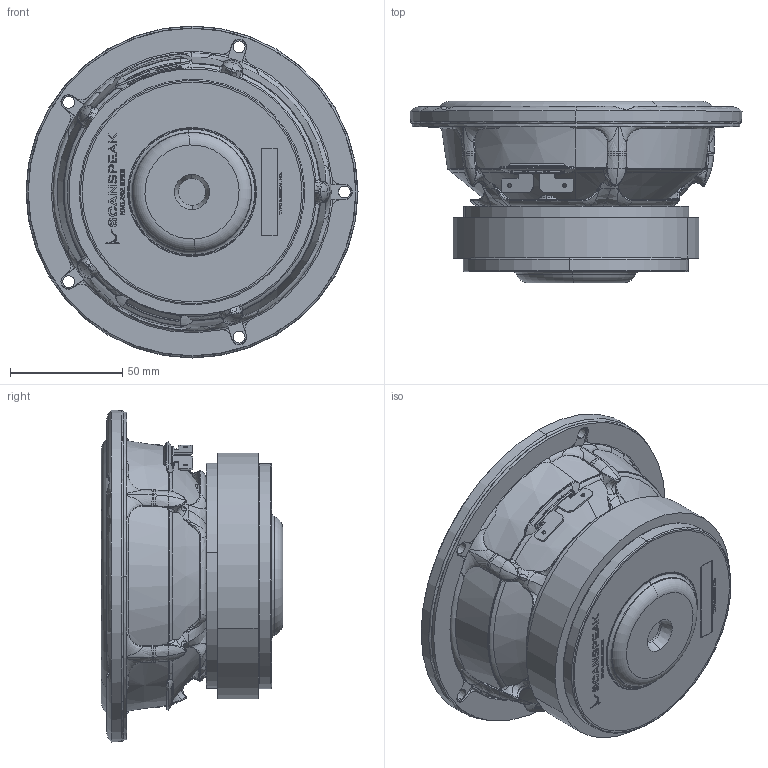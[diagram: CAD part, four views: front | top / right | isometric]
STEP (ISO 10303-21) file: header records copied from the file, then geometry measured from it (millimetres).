
FILE_DESCRIPTION (( 'STEP AP214' ), '1' );
FILE_NAME ('15W-4531G00.STEP', '2020-12-14T09:52:19', ( '' ), ( '' ), 'SwSTEP 2.0', 'SolidWorks 2019', '' );
FILE_SCHEMA (( 'AUTOMOTIVE_DESIGN' ));
Length unit declared in the file: millimetre
Products named in the file (1): 15W-4531G00
Bounding box: 148 x 80.88 x 148 mm (x, y, z)
Volume: 674647.6 mm3; surface area: 93958.8 mm2
Topology: 2 solids, 16 shells, 1739 faces, 4772 edges, 3100 vertices
Faces by surface type: plane 760, bspline 572, cone 149, cylinder 141, torus 110, sphere 7
Entity records: 127285 total; most frequent: CARTESIAN_POINT 69668, ORIENTED_EDGE 9500, DIRECTION 6068, EDGE_CURVE 4750, VERTEX_POINT 3100, LINE 2168, VECTOR 2168, AXIS2_PLACEMENT_3D 1950
